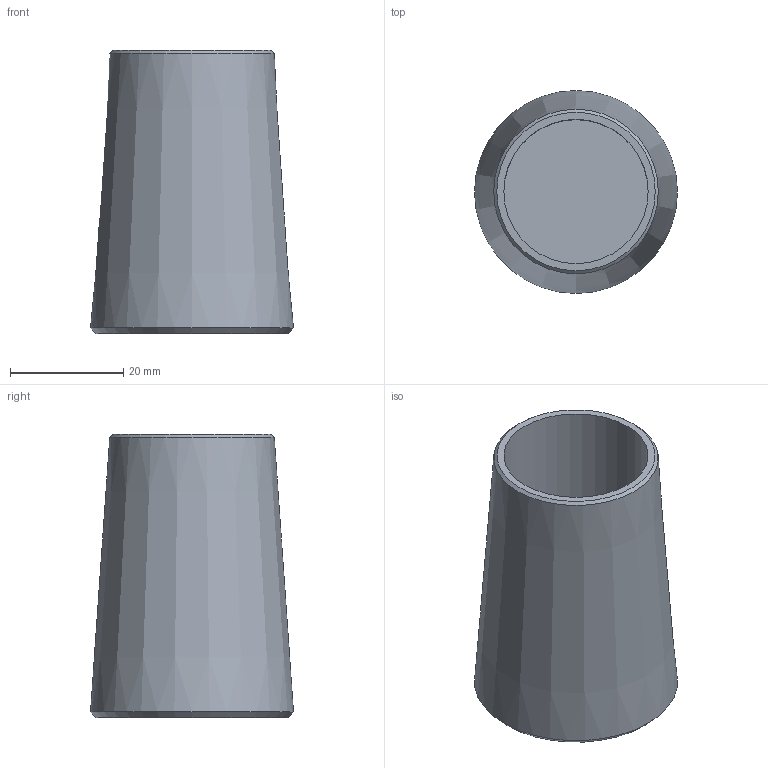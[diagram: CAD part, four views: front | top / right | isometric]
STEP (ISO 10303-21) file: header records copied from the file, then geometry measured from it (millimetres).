
FILE_DESCRIPTION(/* description */ (''),/* implementation_level */ '2;1');
FILE_NAME(/* name */ 'C:\Vault_WS\Designs\SB\01-PX\Verzinkt\ZSS\520 - Kontermutter\520-024-KMU.stp',/* time_stamp */ '2020-06-18T12:25:16+02:00',/* author */ ('schwarz'),/* organization */ (''),/* preprocessor_version */ 'ST-DEVELOPER v16.1',/* originating_system */ 'Autodesk Inventor 2016',/* authorisation */ '');
FILE_SCHEMA (('AUTOMOTIVE_DESIGN { 1 0 10303 214 3 1 1 }'));
Length unit declared in the file: millimetre
Products named in the file (1): Kontermutter 520 024 Kunde
Bounding box: 35.86 x 35.86 x 50 mm (x, y, z)
Volume: 22174.9 mm3; surface area: 9743.1 mm2
Topology: 1 solids, 1 shells, 7 faces, 10 edges, 6 vertices
Faces by surface type: cone 3, plane 3, cylinder 1
Full cylindrical faces by diameter (mm): 25.5 x1
Entity records: 158 total; most frequent: DIRECTION 28, CARTESIAN_POINT 20, AXIS2_PLACEMENT_3D 14, EDGE_LOOP 12, ORIENTED_EDGE 12, FACE_OUTER_BOUND 7, ADVANCED_FACE 7, CIRCLE 6
